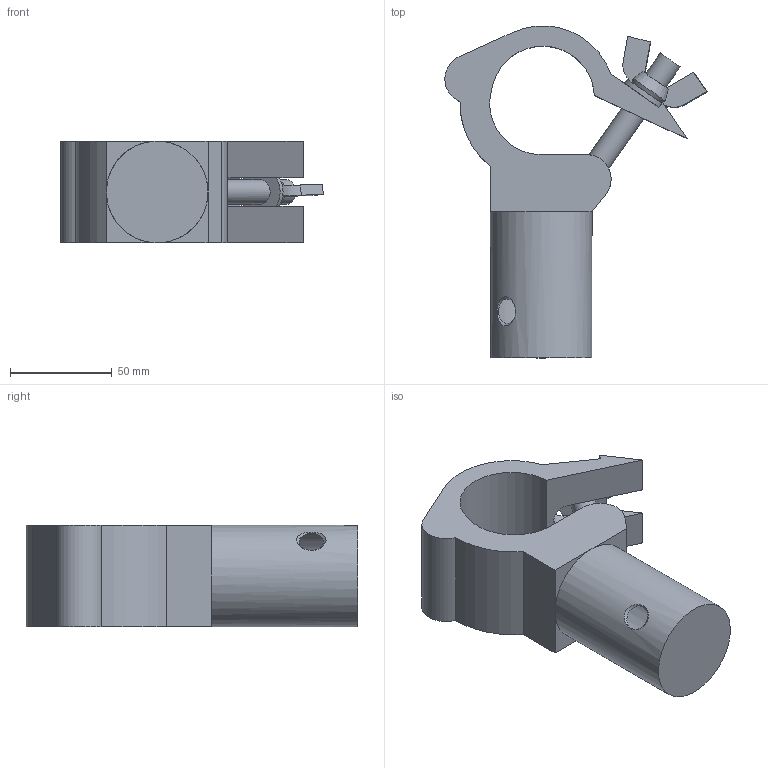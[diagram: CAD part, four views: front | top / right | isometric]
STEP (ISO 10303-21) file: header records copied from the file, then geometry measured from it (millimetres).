
FILE_DESCRIPTION(/* description */ (''),/* implementation_level */ '2;1');
FILE_NAME(/* name */ 'K:\Techniek\CAD Tekeningen\Inventor transport\Cas\Cad Blokken\Catalogus\CS1-DCxx\CS1-DC10.stp',/* time_stamp */ '2021-06-22T09:46:16+02:00',/* author */ ('Cas'),/* organization */ (''),/* preprocessor_version */ 'ST-DEVELOPER v18',/* originating_system */ 'Autodesk Inventor 2020',/* authorisation */ '');
FILE_SCHEMA (('AUTOMOTIVE_DESIGN { 1 0 10303 214 3 1 1 }'));
Length unit declared in the file: millimetre
Products named in the file (1): CS1-DC10
Bounding box: 129.13 x 163.33 x 50 mm (x, y, z)
Volume: 328043.5 mm3; surface area: 49407.2 mm2
Topology: 1 solids, 1 shells, 58 faces, 159 edges, 102 vertices
Faces by surface type: plane 37, cylinder 15, cone 6
Full cylindrical faces by diameter (mm): 12 x2, 50 x1
Entity records: 2095 total; most frequent: CARTESIAN_POINT 452, ORIENTED_EDGE 326, DIRECTION 307, EDGE_CURVE 163, AXIS2_PLACEMENT_3D 103, VERTEX_POINT 102, LINE 101, VECTOR 101
